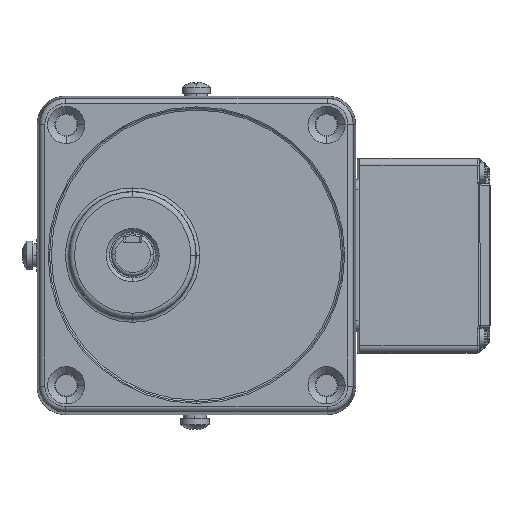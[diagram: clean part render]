
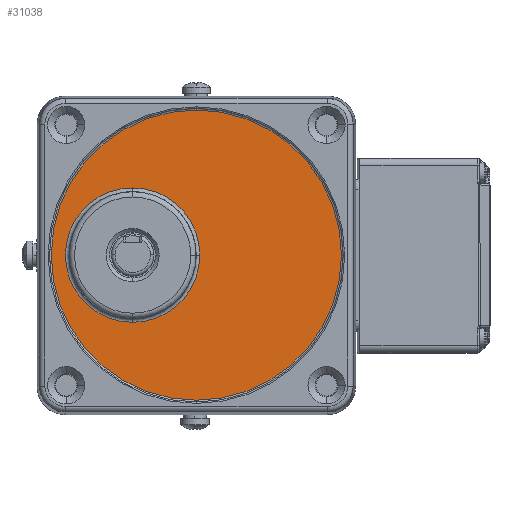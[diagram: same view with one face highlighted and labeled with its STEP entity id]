
A CAD part, top view. The second image highlights one B-rep face of the part: STEP entity #31038.
In plain terms, the highlighted planar face has unit normal (0, 0, 1) as drawn and (1, 0, 0) by its records, which use the part's own axes.
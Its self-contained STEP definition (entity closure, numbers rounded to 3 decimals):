
#492 = CARTESIAN_POINT ( 'NONE',  ( 2679.792, -775.157, 40.991 ) ) ;
#2134 = ORIENTED_EDGE ( 'NONE', *, *, #39609, .F. ) ;
#3197 = VERTEX_POINT ( 'NONE', #492 ) ;
#3345 = AXIS2_PLACEMENT_3D ( 'NONE', #48675, #60449, #5517 ) ;
#4317 = ORIENTED_EDGE ( 'NONE', *, *, #59569, .F. ) ;
#5517 = DIRECTION ( 'NONE',  ( 0., 0., 1. ) ) ;
#6611 = CIRCLE ( 'NONE', #24840, 40.991 ) ;
#7521 = DIRECTION ( 'NONE',  ( -1., 0., 0. ) ) ;
#7679 = EDGE_CURVE ( 'NONE', #70248, #26447, #19253, .T. ) ;
#7802 = DIRECTION ( 'NONE',  ( 0., 0., 1. ) ) ;
#8774 = ORIENTED_EDGE ( 'NONE', *, *, #47316, .F. ) ;
#9392 = DIRECTION ( 'NONE',  ( 0., 1., 0. ) ) ;
#9639 = CIRCLE ( 'NONE', #58613, 40.991 ) ;
#10149 = AXIS2_PLACEMENT_3D ( 'NONE', #31063, #57448, #25696 ) ;
#13929 = ORIENTED_EDGE ( 'NONE', *, *, #19804, .F. ) ;
#14460 = CARTESIAN_POINT ( 'NONE',  ( 2679.792, -775.157, -40.991 ) ) ;
#14904 = CARTESIAN_POINT ( 'NONE',  ( 2679.792, -793.157, -18.983 ) ) ;
#17658 = AXIS2_PLACEMENT_3D ( 'NONE', #56802, #41472, #20056 ) ;
#18013 = VERTEX_POINT ( 'NONE', #60433 ) ;
#18171 = CARTESIAN_POINT ( 'NONE',  ( 2679.792, -793.157, 0. ) ) ;
#18905 = CARTESIAN_POINT ( 'NONE',  ( 2679.792, -793.157, 18.983 ) ) ;
#19253 = CIRCLE ( 'NONE', #21540, 18.983 ) ;
#19357 = CIRCLE ( 'NONE', #3345, 40.991 ) ;
#19804 = EDGE_CURVE ( 'NONE', #70161, #70248, #40899, .T. ) ;
#19908 = CIRCLE ( 'NONE', #17658, 18.983 ) ;
#20056 = DIRECTION ( 'NONE',  ( 0., 0., -1. ) ) ;
#20702 = DIRECTION ( 'NONE',  ( -1., 0., 0. ) ) ;
#20919 = ORIENTED_EDGE ( 'NONE', *, *, #45804, .F. ) ;
#21540 = AXIS2_PLACEMENT_3D ( 'NONE', #18171, #56665, #7802 ) ;
#24840 = AXIS2_PLACEMENT_3D ( 'NONE', #45699, #7521, #56390 ) ;
#25696 = DIRECTION ( 'NONE',  ( 0., 0., -1. ) ) ;
#26157 = FACE_OUTER_BOUND ( 'NONE', #35602, .T. ) ;
#26447 = VERTEX_POINT ( 'NONE', #14904 ) ;
#29016 = AXIS2_PLACEMENT_3D ( 'NONE', #32213, #36516, #9392 ) ;
#31038 = ADVANCED_FACE ( 'NONE', ( #26157, #37213 ), #36148, .T. ) ;
#31063 = CARTESIAN_POINT ( 'NONE',  ( 2679.792, -793.157, 0. ) ) ;
#32213 = CARTESIAN_POINT ( 'NONE',  ( 2679.792, -775.157, 0. ) ) ;
#33165 = EDGE_LOOP ( 'NONE', ( #20919, #66507, #13929 ) ) ;
#35602 = EDGE_LOOP ( 'NONE', ( #2134, #4317, #8774 ) ) ;
#36148 = PLANE ( 'NONE',  #29016 ) ;
#36516 = DIRECTION ( 'NONE',  ( 1., 0., 0. ) ) ;
#37213 = FACE_BOUND ( 'NONE', #33165, .T. ) ;
#37449 = CARTESIAN_POINT ( 'NONE',  ( 2679.792, -775.157, 0. ) ) ;
#39609 = EDGE_CURVE ( 'NONE', #61639, #3197, #6611, .T. ) ;
#40319 = CARTESIAN_POINT ( 'NONE',  ( 2679.792, -774.175, 0. ) ) ;
#40899 = CIRCLE ( 'NONE', #10149, 18.983 ) ;
#41472 = DIRECTION ( 'NONE',  ( 1., 0., 0. ) ) ;
#45699 = CARTESIAN_POINT ( 'NONE',  ( 2679.792, -775.157, 0. ) ) ;
#45804 = EDGE_CURVE ( 'NONE', #26447, #70161, #19908, .T. ) ;
#47316 = EDGE_CURVE ( 'NONE', #3197, #18013, #9639, .T. ) ;
#48675 = CARTESIAN_POINT ( 'NONE',  ( 2679.792, -775.157, 0. ) ) ;
#54180 = DIRECTION ( 'NONE',  ( 0., 0., 1. ) ) ;
#56390 = DIRECTION ( 'NONE',  ( 0., 0., -1. ) ) ;
#56665 = DIRECTION ( 'NONE',  ( 1., 0., 0. ) ) ;
#56802 = CARTESIAN_POINT ( 'NONE',  ( 2679.792, -793.157, 0. ) ) ;
#57448 = DIRECTION ( 'NONE',  ( 1., 0., 0. ) ) ;
#58613 = AXIS2_PLACEMENT_3D ( 'NONE', #37449, #20702, #54180 ) ;
#59569 = EDGE_CURVE ( 'NONE', #18013, #61639, #19357, .T. ) ;
#60433 = CARTESIAN_POINT ( 'NONE',  ( 2679.792, -734.166, 0. ) ) ;
#60449 = DIRECTION ( 'NONE',  ( -1., 0., 0. ) ) ;
#61639 = VERTEX_POINT ( 'NONE', #14460 ) ;
#66507 = ORIENTED_EDGE ( 'NONE', *, *, #7679, .F. ) ;
#70161 = VERTEX_POINT ( 'NONE', #40319 ) ;
#70248 = VERTEX_POINT ( 'NONE', #18905 ) ;
